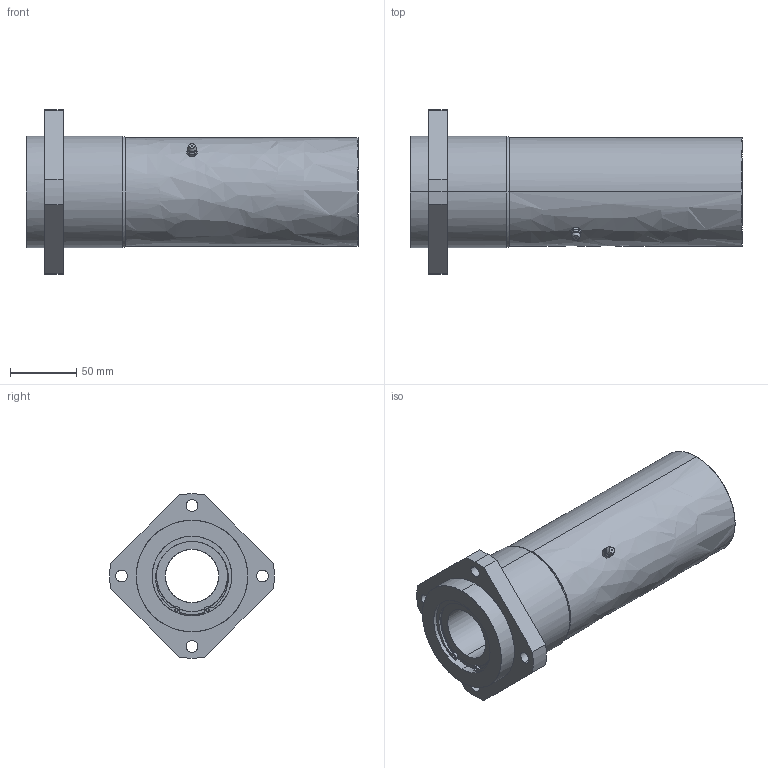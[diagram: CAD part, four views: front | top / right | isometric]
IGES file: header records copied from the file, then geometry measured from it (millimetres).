
Global section: file name: No Iges File Name specified; native system: AutoDesk Inventor R10; preprocessor: AutoDesk Inventor Iges Exporter R10; author: No Author specified; organization: No Organization specified; date: 20101214.141501; units: millimetre
Bounding box: 250 x 123.84 x 124 mm (x, y, z)
Surface area: 129486.2 mm2 (no closed solid volume)
Topology: 0 solids, 0 shells, 162 faces, 1112 edges, 1110 vertices
Faces by surface type: bspline 162
